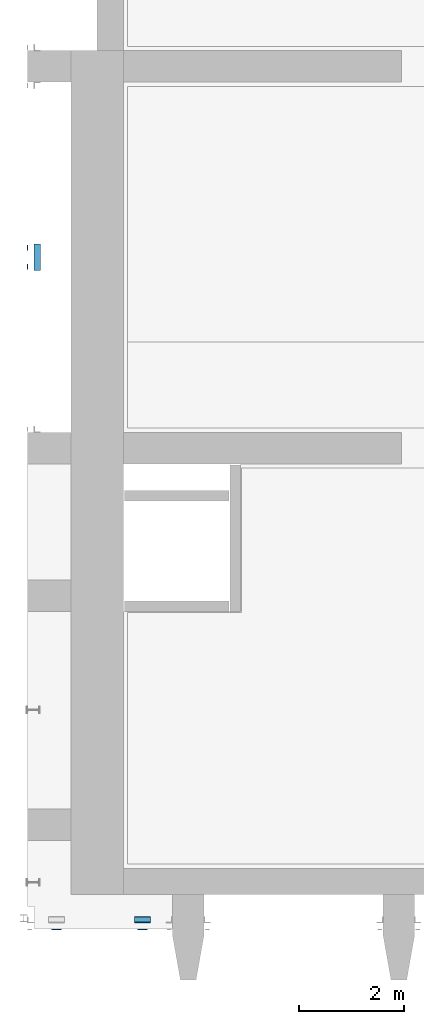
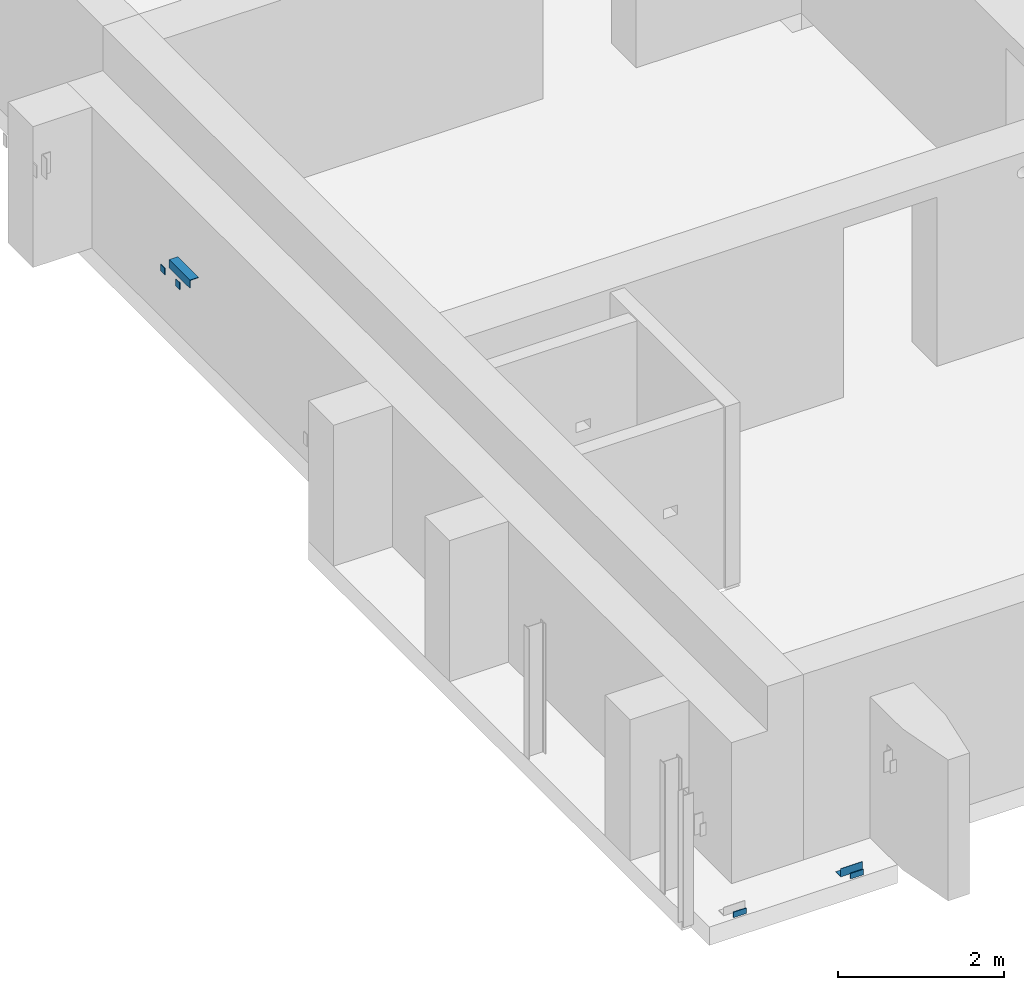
# One storey, part 15 of 22: 6 beams.
"""IFC2X3 building model written with IfcOpenShell, lengths in millimetres."""

from ifc_helpers import new_model, entity, si_unit, converted_unit, derived_unit, direction, frame, frame_2d, origin, origin_2d_with_axis, place, context, subcontext, project, spatial, polyline, circle_curve, parameter, trimmed, segment, composite_curve, rectangle, outline, extrude, source, transform, mapped, material, type_object, type_shapes, element, save


model = new_model("IFC2X3")

# Units and contexts
model_context = context("Model", 3, precision=0.01, world=origin(), true_north=direction((6.12303176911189e-17, 1.0)))
body_context = subcontext(model_context, "Body", "Model", "MODEL_VIEW")
ifc_project = project(units=[si_unit("LENGTHUNIT", "METRE", prefix="MILLI"), si_unit("AREAUNIT", "SQUARE_METRE"), si_unit("VOLUMEUNIT", "CUBIC_METRE"), converted_unit("PLANEANGLEUNIT", "DEGREE", entity("IfcRatioMeasure", 0.0174532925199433), si_unit("PLANEANGLEUNIT", "RADIAN"), dimensions=[0, 0, 0, 0, 0, 0, 0]), si_unit("MASSUNIT", "GRAM", prefix="KILO"), derived_unit("MASSDENSITYUNIT", [(si_unit("MASSUNIT", "GRAM", prefix="KILO"), 1), (si_unit("LENGTHUNIT", "METRE"), -3)]), si_unit("TIMEUNIT", "SECOND"), si_unit("FREQUENCYUNIT", "HERTZ"), si_unit("THERMODYNAMICTEMPERATUREUNIT", "DEGREE_CELSIUS"), derived_unit("THERMALTRANSMITTANCEUNIT", [(si_unit("MASSUNIT", "GRAM", prefix="KILO"), 1), (si_unit("THERMODYNAMICTEMPERATUREUNIT", "KELVIN"), -1), (si_unit("TIMEUNIT", "SECOND"), -3)]), derived_unit("VOLUMETRICFLOWRATEUNIT", [(si_unit("LENGTHUNIT", "METRE"), 3), (si_unit("TIMEUNIT", "SECOND"), -1)]), si_unit("ELECTRICCURRENTUNIT", "AMPERE"), si_unit("ELECTRICVOLTAGEUNIT", "VOLT"), si_unit("POWERUNIT", "WATT"), si_unit("FORCEUNIT", "NEWTON", prefix="KILO"), si_unit("ILLUMINANCEUNIT", "LUX"), si_unit("LUMINOUSFLUXUNIT", "LUMEN"), si_unit("LUMINOUSINTENSITYUNIT", "CANDELA"), derived_unit("USERDEFINED", [(si_unit("MASSUNIT", "GRAM", prefix="KILO"), -1), (si_unit("LENGTHUNIT", "METRE"), -2), (si_unit("TIMEUNIT", "SECOND"), 3), (si_unit("LUMINOUSFLUXUNIT", "LUMEN"), 1)]), derived_unit("LINEARVELOCITYUNIT", [(si_unit("LENGTHUNIT", "METRE"), 1), (si_unit("TIMEUNIT", "SECOND"), -1)]), si_unit("PRESSUREUNIT", "PASCAL"), derived_unit("USERDEFINED", [(si_unit("LENGTHUNIT", "METRE"), -2), (si_unit("MASSUNIT", "GRAM", prefix="KILO"), 1), (si_unit("TIMEUNIT", "SECOND"), -2)])], contexts=[model_context])

# Site, building, storey
site_placement = place(None, origin())
site = spatial("IfcSite", under=ifc_project, at=site_placement, Name="Default", CompositionType="ELEMENT")
building_placement = place(site_placement, origin())
building = spatial("IfcBuilding", under=site, at=building_placement, Name="niet gebruiken", CompositionType="ELEMENT")
storey_placement = place(building_placement, frame((0.0, 0.0, 15000.0)))
storey = spatial("IfcBuildingStorey", under=building, at=storey_placement, Name="04 vierde verdieping", CompositionType="ELEMENT", Elevation=15000.0)

# Beams
ifc_material = material(Name="NLRS_h2_staal")
beam_type_1 = type_object("IfcBeamType", Name="NLRS_28.11_SF_WPB_stalen ligger hoekprofiel gelijkzijdig_gen:ligger gelijzijdig hoekprofiel LEQU_120x120x12_!", PredefinedType="BEAM")
beam_1_placement = place(storey_placement, frame((126730.0, 1254.0, 30.0)))
element("IfcBeam", 1, at=beam_1_placement, inside=storey, type_object=beam_type_1, material=ifc_material, Name="NLRS_28.11_SF_WPB_stalen ligger hoekprofiel gelijkzijdig_gen:ligger gelijzijdig hoekprofiel LEQU_120x120x12_!", ObjectType="NLRS_28.11_SF_WPB_stalen ligger hoekprofiel gelijkzijdig_gen:ligger gelijzijdig hoekprofiel LEQU_120x120x12_!", context=body_context, shape_type="SweptSolid", body=[
    extrude(outline(composite_curve([segment(polyline([(-75.5555555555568, -44.444444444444), (44.444444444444, -44.444444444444)]), True, "CONTINUOUS"), segment(polyline([(44.444444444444, -44.4444444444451), (44.4444444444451, 75.5555555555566)]), True, "CONTINUOUS"), segment(polyline([(44.4444444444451, 75.5555555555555), (40.4444444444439, 75.5555555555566)]), True, "CONTINUOUS"), segment(trimmed(circle_curve(frame_2d((40.444444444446, 69.5555555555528), x_axis=(0.0, 1.0)), 6.00000000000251), [parameter(0.0)], [parameter(89.9999999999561)], True, "PARAMETER"), True, "CONTINUOUS"), segment(polyline([(34.444444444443, 69.5555555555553), (34.4444444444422, -22.4444444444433)]), True, "CONTINUOUS"), segment(trimmed(circle_curve(frame_2d((22.4444444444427, -22.4444444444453), x_axis=(1.0, 0.0)), 11.9999999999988), [parameter(269.999999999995)], [parameter(0.0)], True, "PARAMETER"), False, "CONTINUOUS"), segment(polyline([(22.4444444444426, -34.4444444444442), (-69.5555555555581, -34.4444444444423)]), True, "CONTINUOUS"), segment(trimmed(circle_curve(frame_2d((-69.5555555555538, -40.4444444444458), x_axis=(0.0, 1.0)), 6.00000000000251), [parameter(0.0)], [parameter(89.9999999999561)], True, "PARAMETER"), True, "CONTINUOUS"), segment(polyline([(-75.5555555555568, -40.4444444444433), (-75.5555555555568, -44.444444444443)]), True, "CONTINUOUS")], self_intersect=False)), frame((0.0, 24.4444444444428, -75.5555555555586), z_axis=(1.0, 0.0, 0.0), x_axis=(0.0, 0.0, -1.0)), (0.0, 0.0, 1.0), 300.000000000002),
])
beam_2_placement = place(storey_placement, frame((124840.0, 13645.0, 1732.0), z_axis=(0.0, 0.0, 1.0), x_axis=(0.0, 1.0, 0.0)))
element("IfcBeam", 2, at=beam_2_placement, inside=storey, type_object=beam_type_1, material=ifc_material, Name="NLRS_28.11_SF_WPB_stalen ligger hoekprofiel gelijkzijdig_gen:ligger gelijzijdig hoekprofiel LEQU_120x120x12_!", ObjectType="NLRS_28.11_SF_WPB_stalen ligger hoekprofiel gelijkzijdig_gen:ligger gelijzijdig hoekprofiel LEQU_120x120x12_!", context=body_context, shape_type="SweptSolid", body=[
    extrude(outline(composite_curve([segment(polyline([(-44.4444444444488, -75.5555555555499), (-40.4444444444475, -75.5555555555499)]), True, "CONTINUOUS"), segment(trimmed(circle_curve(frame_2d((-40.4444444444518, -69.555555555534), x_axis=(0.0, -1.0)), 6.00000000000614), [parameter(0.0)], [parameter(89.9999999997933)], True, "PARAMETER"), True, "CONTINUOUS"), segment(polyline([(-34.4444444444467, -69.5555555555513), (-34.4444444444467, 22.4444444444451)]), True, "CONTINUOUS"), segment(trimmed(circle_curve(frame_2d((-22.4444444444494, 22.4444444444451), x_axis=(-1.0, 0.0)), 11.9999999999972), [parameter(269.99999999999)], [parameter(0.0)], True, "PARAMETER"), False, "CONTINUOUS"), segment(polyline([(-22.4444444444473, 34.4444444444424), (69.5555555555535, 34.4444444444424)]), True, "CONTINUOUS"), segment(trimmed(circle_curve(frame_2d((69.555555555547, 40.4444444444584), x_axis=(0.0, -1.0)), 6.00000000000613), [parameter(0.0)], [parameter(89.9999999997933)], True, "PARAMETER"), True, "CONTINUOUS"), segment(polyline([(75.5555555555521, 40.444444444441), (75.5555555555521, 44.4444444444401)]), True, "CONTINUOUS"), segment(polyline([(75.5555555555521, 44.4444444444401), (-44.4444444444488, 44.4444444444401)]), True, "CONTINUOUS"), segment(polyline([(-44.4444444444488, 44.4444444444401), (-44.4444444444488, -75.5555555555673)]), True, "CONTINUOUS")], self_intersect=False)), frame((-20.0, -24.444444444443, 75.5555555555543), z_axis=(1.0, 0.0, 0.0), x_axis=(0.0, 0.0, -1.0)), (0.0, 0.0, 1.0), 500.000000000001),
])
beam_type_2 = type_object("IfcBeamType", Name="ligger stripstaal RECT_80x12 gedraaid_!", PredefinedType="BEAM", material=ifc_material)
shared_shape_1 = source(origin(), body_context, "Body", "SweptSolid", [
    extrude(rectangle(XDim=179.99999999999, YDim=12.0, at=origin_2d_with_axis()), frame((0.0, 0.0, -40.0), z_axis=(0.0, 0.0, 1.0), x_axis=(-1.0, 0.0, 0.0)), (0.0, 0.0, 1.0), 80.0),
    extrude(rectangle(XDim=179.99999999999, YDim=12.0, at=origin_2d_with_axis()), frame((0.0, 0.0, -40.0), z_axis=(0.0, 0.0, 1.0), x_axis=(-1.0, 0.0, 0.0)), (0.0, 0.0, 1.0), 80.0),
])
type_shapes(beam_type_2, [shared_shape_1])
for number, where, z_axis, x_axis in (
    (3, (125250.0, 1108.0, -20.0), (0.0, 0.0, 1.0), (-1.0, 0.0, 0.0)),
    (4, (126880.0, 1108.0, -20.0), (0.0, 0.0, 1.0), (-1.0, 0.0, 0.0)),
):
    element("IfcBeam", number, at=place(storey_placement, frame(where, z_axis=z_axis, x_axis=x_axis)), inside=storey, type_object=beam_type_2, material=ifc_material, Name="NLRS_28.11_SF_WPB_stalen ligger stripstaal_gen:ligger stripstaal RECT_80x12 gedraaid_!", ObjectType="ligger stripstaal RECT_80x12 gedraaid_!", context=body_context, shape_type="MappedRepresentation", body=[
        mapped(shared_shape_1, transform((0.0, 0.0, 0.0), scale=1.0)),
    ])
beam_type_3 = type_object("IfcBeamType", Name="ligger stripstaal RECT_100x10 gedraaid", PredefinedType="BEAM", material=ifc_material)
shared_shape_2 = source(origin(), body_context, "Body", "SweptSolid", [
    extrude(rectangle(XDim=100.0, YDim=9.99999999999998, at=origin_2d_with_axis()), frame((0.0, 0.0, -50.0), z_axis=(0.0, 0.0, 1.0), x_axis=(-1.0, 0.0, 0.0)), (0.0, 0.0, 1.0), 100.0),
    extrude(rectangle(XDim=100.0, YDim=9.99999999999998, at=origin_2d_with_axis()), frame((0.0, 0.0, -50.0), z_axis=(0.0, 0.0, 1.0), x_axis=(-1.0, 0.0, 0.0)), (0.0, 0.0, 1.0), 100.0),
])
type_shapes(beam_type_3, [shared_shape_2])
for number, where, z_axis, x_axis, name in (
    (5, (124695.0, 13695.0, 1792.0), (0.0, 0.0, 1.0), (0.0, 1.0, 0.0), "NLRS_28.11_SF_WPB_stalen ligger stripstaal_gen:ligger stripstaal RECT_100x10 gedraaid"),
    (6, (124695.0, 14055.0, 1792.0), (0.0, 0.0, 1.0), (0.0, 1.0, 0.0), "NLRS_28.11_SF_WPB_stalen ligger stripstaal_gen:ligger stripstaal RECT_100x10 gedraaid"),
):
    element("IfcBeam", number, at=place(storey_placement, frame(where, z_axis=z_axis, x_axis=x_axis)), inside=storey, type_object=beam_type_3, material=ifc_material, Name=name, ObjectType="ligger stripstaal RECT_100x10 gedraaid", context=body_context, shape_type="MappedRepresentation", body=[
        mapped(shared_shape_2, transform((0.0, 0.0, 0.0), scale=1.0)),
    ])

save(model, "model.ifc")
